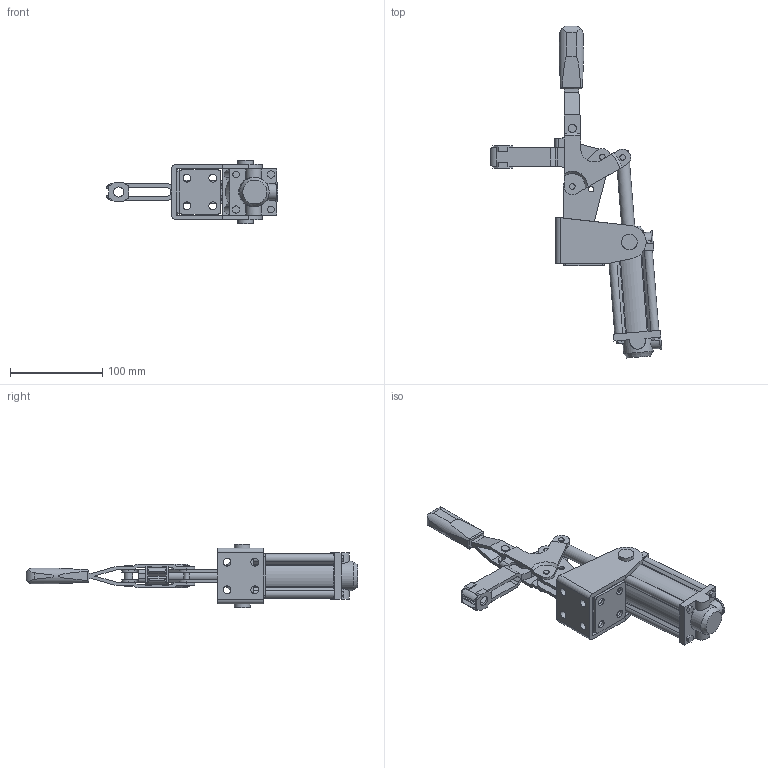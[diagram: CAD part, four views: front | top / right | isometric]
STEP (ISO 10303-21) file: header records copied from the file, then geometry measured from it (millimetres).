
FILE_DESCRIPTION( ( 'STEP AP203' ), '1' );
FILE_NAME( 'C:/Temp/Ganter_Step_05_03_2020/data/2_4/gn862_1/gn862_1_apv3s/gn862_1_apv3s/Toggle clamp GN 862.1-300-APV3S (closed).stp', '2020-03-13T05:49:56', ( 'License CC BY-ND 4.0' ), ( 'CADENAS' ), ' ', 'PARTsolutions', ' ' );
FILE_SCHEMA( ( 'CONFIG_CONTROL_DESIGN' ) );
Length unit declared in the file: millimetre
Products named in the file (9): Toggle clamp GN 862.1-300-APV3S (closed); _Toggle clamp GN 862.1-300-APV3S-1; _Toggle clamp GN 862.1-300-APV3S (0)-5; _Toggle clamp GN 862.1-300-APV3S (0)-4; _Toggle clamp GN 862.1-300-APV3S (0)-2; _Toggle clamp GN 862.1-300-APV3S-6; _Toggle clamp GN 862.1-300-APV3S (0)-3; _Toggle clamp GN 862.1-300-APV3S-7; _Toggle clamp GN 862.1-300-APV3S-8
Assembly tree (9 placements, depth 2):
  Toggle clamp GN 862.1-300-APV3S (closed)
    _Toggle clamp GN 862.1-300-APV3S-1
    _Toggle clamp GN 862.1-300-APV3S (0)-5
    _Toggle clamp GN 862.1-300-APV3S (0)-4
    _Toggle clamp GN 862.1-300-APV3S (0)-2
    _Toggle clamp GN 862.1-300-APV3S-6
    _Toggle clamp GN 862.1-300-APV3S (0)-3
    _Toggle clamp GN 862.1-300-APV3S-7
    _Toggle clamp GN 862.1-300-APV3S-8  x2
Bounding box: 186 x 360 x 68.5 mm (x, y, z)
Volume: 303765.1 mm3; surface area: 142714.9 mm2
Topology: 8 solids, 8 shells, 409 faces, 1099 edges, 732 vertices
Faces by surface type: plane 262, cylinder 126, cone 19, torus 2
Full cylindrical faces by diameter (mm): 6 x17, 8.5 x8, 9 x5, 11 x2, 11.445 x2, 14 x1, 14.02 x1, 17 x4, 22 x2, 22.02 x1, 32 x2, 40 x1
Entity records: 12885 total; most frequent: CARTESIAN_POINT 2905, DIRECTION 1989, ORIENTED_EDGE 1948, EDGE_CURVE 974, VERTEX_POINT 676, AXIS2_PLACEMENT_3D 675, LINE 639, VECTOR 639
